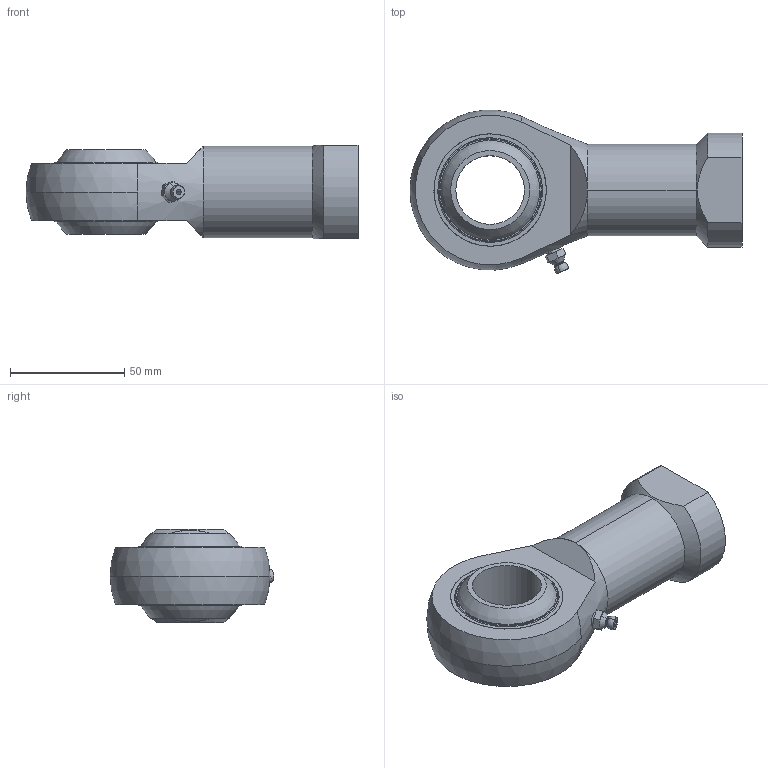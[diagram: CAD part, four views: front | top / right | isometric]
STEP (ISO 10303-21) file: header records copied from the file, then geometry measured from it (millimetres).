
FILE_DESCRIPTION (( 'STEP AP203' ), '1' );
FILE_NAME ('65760.W0230.step', '2014-02-11T16:40:54', ( 'User' ), ( '' ), 'SwSTEP 2.0', 'SolidWorks 2009', '' );
FILE_SCHEMA (( 'CONFIG_CONTROL_DESIGN' ));
Length unit declared in the file: millimetre
Products named in the file (5): 65760.W0230; Part1_65760.W0230; Part2_65760.W0230; Part3_M6; Part4_65760.W0230
Assembly tree (5 placements, depth 2):
  65760.W0230
    Part2_65760.W0230
    Part3_M6
    Part4_65760.W0230  x2
    Part1_65760.W0230
Bounding box: 145 x 71.49 x 41 mm (x, y, z)
Volume: 141231.8 mm3; surface area: 49825.1 mm2
Topology: 46 solids, 46 shells, 183 faces, 524 edges, 353 vertices
Faces by surface type: sphere 98, plane 27, torus 22, cylinder 20, cone 16
Entity records: 4817 total; most frequent: CARTESIAN_POINT 911, DIRECTION 814, ORIENTED_EDGE 558, AXIS2_PLACEMENT_3D 385, EDGE_CURVE 279, VERTEX_POINT 208, CIRCLE 207, EDGE_LOOP 189
